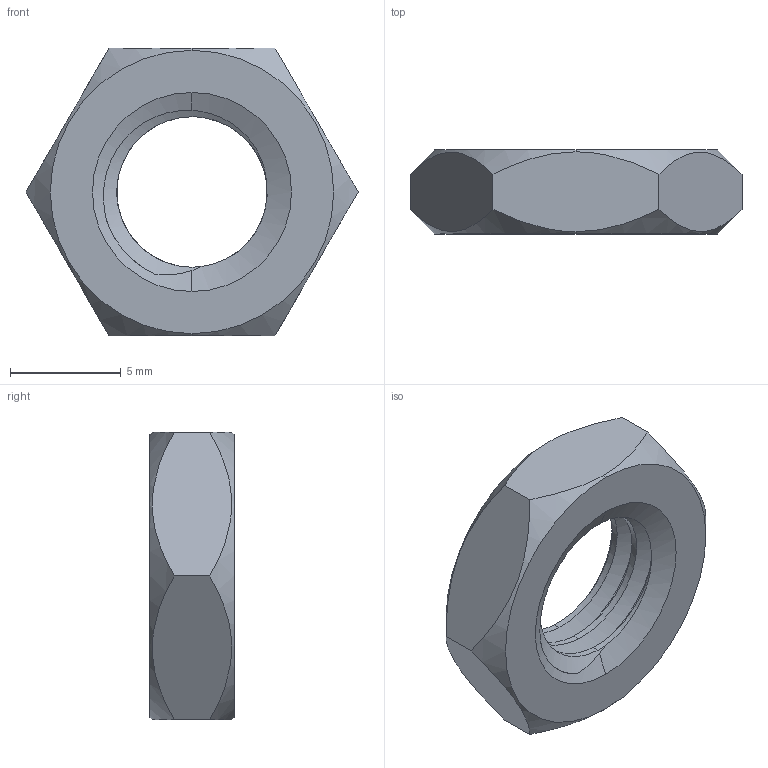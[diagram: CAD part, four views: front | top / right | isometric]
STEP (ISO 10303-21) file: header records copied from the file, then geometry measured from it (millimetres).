
FILE_DESCRIPTION (( 'STEP AP203' ), '1' );
FILE_NAME ('TANM-304-M8.STEP', '2026-08-25T09:17:32', ( '' ), ( '' ), 'SwSTEP 2.0', 'SolidWorks 2020', '' );
FILE_SCHEMA (( 'CONFIG_CONTROL_DESIGN' ));
Length unit declared in the file: millimetre
Products named in the file (1): TANM-304-M8
Bounding box: 15.01 x 3.8 x 13 mm (x, y, z)
Volume: 373.7 mm3; surface area: 475.5 mm2
Topology: 1 solids, 1 shells, 25 faces, 69 edges, 46 vertices
Faces by surface type: cone 8, plane 8, cylinder 6, bspline 3
Entity records: 2281 total; most frequent: CARTESIAN_POINT 1648, ORIENTED_EDGE 138, DIRECTION 85, EDGE_CURVE 69, VERTEX_POINT 46, AXIS2_PLACEMENT_3D 33, B_SPLINE_CURVE_WITH_KNOTS 32, EDGE_LOOP 27
